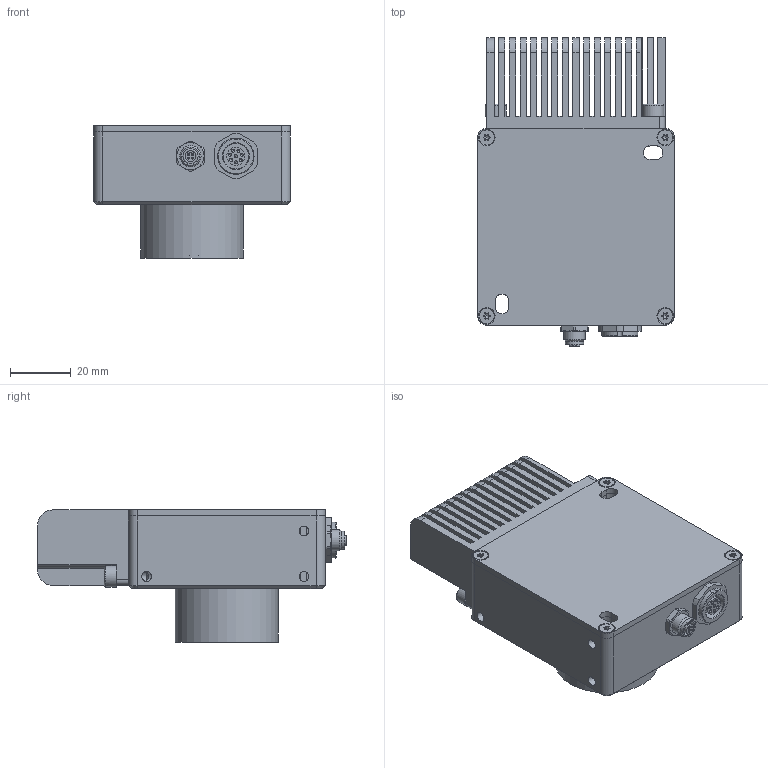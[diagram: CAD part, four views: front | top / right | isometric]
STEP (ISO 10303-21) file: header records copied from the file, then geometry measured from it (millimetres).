
FILE_DESCRIPTION(/* description */ (''),/* implementation_level */ '2;1');
FILE_NAME(/* name */ 'T:\E-Mail-Zeichnungen\STEP\SPECTRO-1-30-GN_RD mit Kühlkörper.stp',/* time_stamp */ '2016-09-30T15:28:42+02:00',/* author */ ('günther.breit'),/* organization */ (''),/* preprocessor_version */ 'ST-DEVELOPER v16.5',/* originating_system */ 'Autodesk Inventor 2017',/* authorisation */ '');
FILE_SCHEMA (('AUTOMOTIVE_DESIGN { 1 0 10303 214 3 1 1 }'));
Length unit declared in the file: millimetre
Products named in the file (1): Bauteil9
Bounding box: 65 x 102 x 43.7 mm (x, y, z)
Volume: 150871.9 mm3; surface area: 42263.2 mm2
Topology: 1 solids, 7 shells, 458 faces, 1197 edges, 781 vertices
Faces by surface type: plane 218, cylinder 179, cone 52, torus 7, sphere 2
Full cylindrical faces by diameter (mm): 0.5 x4, 1 x8, 2.5 x4, 2.8 x2, 2.9 x4, 3 x2, 3.242 x6, 4 x4, 4.5 x2, 5 x5, 6 x4, 7 x4, 7.05 x1, 8.5 x1, 11 x1, 11.1 x1, 12 x1, 12.1 x1, 33 x1, 33.1 x1, 34 x1
Entity records: 14413 total; most frequent: CARTESIAN_POINT 3332, DIRECTION 2154, ORIENTED_EDGE 2114, EDGE_CURVE 1057, AXIS2_PLACEMENT_3D 807, VERTEX_POINT 739, EDGE_LOOP 600, LINE 540
